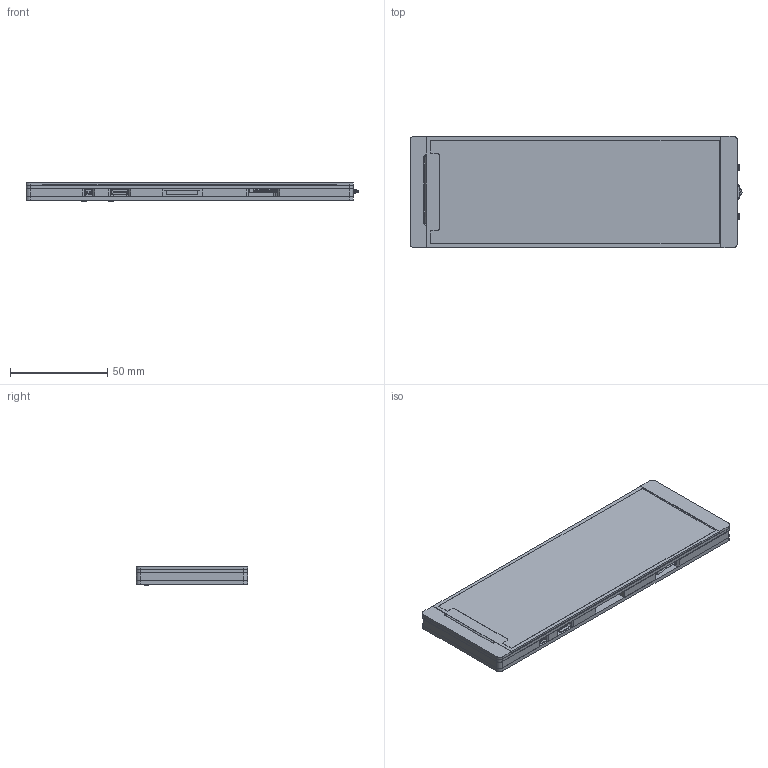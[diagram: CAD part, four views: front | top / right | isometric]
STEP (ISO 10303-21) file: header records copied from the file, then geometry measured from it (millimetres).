
FILE_DESCRIPTION((''),'2;1');
FILE_NAME('00-5_79IN-ESP32_ASM','2024-11-18T17:04:46',('DNZJ-104'),(''),'CREO PARAMETRIC BY PTC INC, 2022164','CREO PARAMETRIC BY PTC INC, 2022164','');
FILE_SCHEMA(('CONFIG_CONTROL_DESIGN'));
Products named in the file (58): BREP_72; BREP_81; 5-7-9LCD_ASM; 5_79IN-PCB; X05A10H24X; NONE-3307; BREP_77; BREP_71; BREP_70; BODY1_1_3_1; BODY2_1_1_1; BODY3_1_1; BODY4_1_1; BODY5_1_1; BODY6_1_1; SMT_PIN_2_1_1; SMT_PIN_4_1_1; SMT_PIN_1_1_1; SMT_PIN_3_1_1; TACT_SWITCH_ASM_2_1_ASM; BOSS-EXTRUDE7_4__1_1; BOSS-EXTRUDE7_5__1_1; BOSS-EXTRUDE7_8__1_1; BOSS-EXTRUDE7_3__1_1; BOSS-EXTRUDE7_7__1_1; BOSS-EXTRUDE14_4__1_1; BOSS-EXTRUDE14_2__1_1; BOSS-EXTRUDE14_8__1_1; BOSS-EXTRUDE14_5__1_1; BOSS-EXTRUDE7_6__1_1; CHAMFER9_1_1; CUT-EXTRUDE5_1_1; MIRROR2_1_1; BOSS-EXTRUDE7_1__1_1; BOSS-EXTRUDE14_10__1_1; BOSS-EXTRUDE14_11__1_1; BOSS-EXTRUDE14_9__1_1; BOSS-EXTRUDE14_6__1_1; BOSS-EXTRUDE14_12__1_1; BOSS-EXTRUDE14_3__1_1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
Assembly tree (64 placements, depth 4):
  00-5_79IN-ESP32_ASM
    5-7-9LCD_ASM
      BREP_72
      BREP_81
    5_79IN-PCB
    X05A10H24X
    NONE-3307
    BREP_77
    BREP_71
    BREP_70
    TACT_SWITCH_ASM_2_1_ASM  x2
      BODY1_1_3_1
      BODY2_1_1_1
      BODY3_1_1
      BODY4_1_1
      BODY5_1_1
      BODY6_1_1
      SMT_PIN_2_1_1
      SMT_PIN_4_1_1
      SMT_PIN_1_1_1
      SMT_PIN_3_1_1
    TYPE_C_PORT_SMD_TYPE__ASM_2_1_ASM
      9899277F-4995-40C0-B099-C6A92_1_ASM
        BOSS-EXTRUDE7_4__1_1
        BOSS-EXTRUDE7_5__1_1
        BOSS-EXTRUDE7_8__1_1
        BOSS-EXTRUDE7_3__1_1
        BOSS-EXTRUDE7_7__1_1
        BOSS-EXTRUDE14_4__1_1
        BOSS-EXTRUDE14_2__1_1
        BOSS-EXTRUDE14_8__1_1
        BOSS-EXTRUDE14_5__1_1
        BOSS-EXTRUDE7_6__1_1
        CHAMFER9_1_1
        CUT-EXTRUDE5_1_1
        MIRROR2_1_1
        BOSS-EXTRUDE7_1__1_1
        BOSS-EXTRUDE14_10__1_1
        BOSS-EXTRUDE14_11__1_1
        BOSS-EXTRUDE14_9__1_1
        BOSS-EXTRUDE14_6__1_1
        BOSS-EXTRUDE14_12__1_1
        BOSS-EXTRUDE14_3__1_1
        BOSS-EXTRUDE14_7__1_1
        BOSS-EXTRUDE7_9__1_1
        BOSS-EXTRUDE7_2__1_1
        NONE_1_1_1
    KEY-579_ASM  x2
      BREP_61
      BREP_62
      BREP_63
    XB-TM-2024A
    M2_5X3_5  x6
    5_79-MIDDLE-COVER
    5_79-BOTTOM-COVER
    5-79-PANEL
    CHECK-C
    CHECK579-0722
Bounding box: 170.56 x 57.24 x 9.6 mm (x, y, z)
Volume: 73580.5 mm3; surface area: 100061.7 mm2
Topology: 69 solids, 69 shells, 5152 faces, 14617 edges, 9669 vertices
Faces by surface type: plane 3742, cylinder 1167, torus 129, sphere 54, bspline 28, revolution 12, extrusion 10, cone 10
Entity records: 158399 total; most frequent: CARTESIAN_POINT 30310, ORIENTED_EDGE 27226, DIRECTION 25602, EDGE_CURVE 13613, VECTOR 11048, LINE 11038, VERTEX_POINT 8999, AXIS2_PLACEMENT_3D 7271
